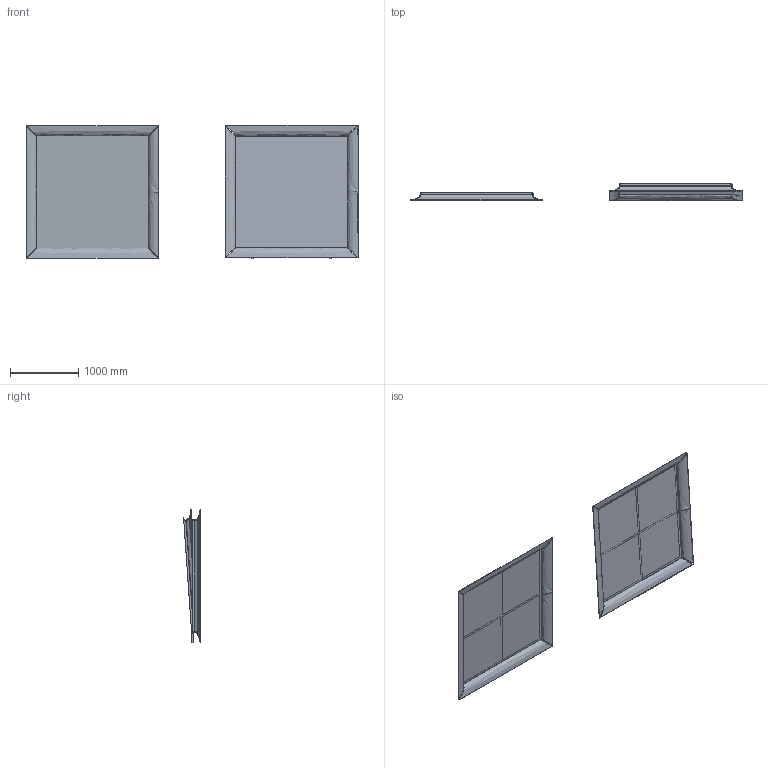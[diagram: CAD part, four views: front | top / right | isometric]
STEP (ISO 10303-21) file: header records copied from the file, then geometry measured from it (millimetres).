
FILE_DESCRIPTION(/* description */ (''),/* implementation_level */ '2;1');
FILE_NAME(/* name */ 'CAADRE~3',/* time_stamp */ '2018-10-08T14:56:49+02:00',/* author */ (''),/* organization */ (''),/* preprocessor_version */ 'ST-DEVELOPER v16.5',/* originating_system */ '',/* authorisation */ '');
FILE_SCHEMA (('CONFIG_CONTROL_DESIGN'));
Length unit declared in the file: millimetre
Products named in the file (1): Document
Bounding box: 4859.52 x 246.85 x 1954.32 mm (x, y, z)
Volume: 68290996.8 mm3; surface area: 19569902.1 mm2
Topology: 17 solids, 17 shells, 195 faces, 459 edges, 282 vertices
Faces by surface type: bspline 103, plane 92
Entity records: 8937 total; most frequent: CARTESIAN_POINT 5755, ORIENTED_EDGE 910, EDGE_CURVE 455, B_SPLINE_CURVE_WITH_KNOTS 455, VERTEX_POINT 278, EDGE_LOOP 197, ADVANCED_FACE 195, FACE_OUTER_BOUND 195
